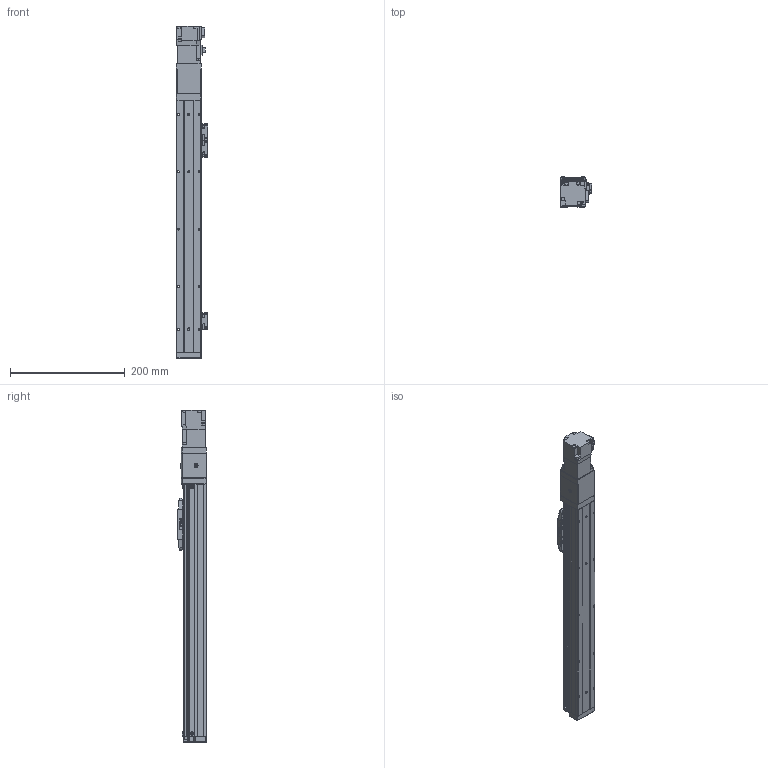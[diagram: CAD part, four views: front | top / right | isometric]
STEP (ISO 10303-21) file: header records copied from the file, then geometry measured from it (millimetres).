
FILE_DESCRIPTION (( 'STEP AP203' ), '1' );
FILE_NAME ('BTH40-300-BC-M05-C4.step', '2021-12-16T00:11:35', ( '微软用户' ), ( '微软中国' ), 'SwSTEP 2.0', 'SolidWorks 2020', '' );
FILE_SCHEMA (( 'CONFIG_CONTROL_DESIGN' ));
Length unit declared in the file: millimetre
Products named in the file (19): BTH40-017; BTH-M3X5X6; BTH40-022; BTH40-005-1; GBT70.1-2000 M3×16; GBT 70.1-M2.5×6; BTH40-300-BC-M05-C4; BTH50-028; BTH40-004; BTH50-023; BTH40-013; BTH40-001-50_BTH40-001-300; BTH50-024; HG-KR13; BTH40-003; GBT 70.1-M3℅6; GBT 70.3-M3℅6; BTH40-006; GBT96.1-2002 3×0.8
Assembly tree (49 placements, depth 2):
  BTH40-300-BC-M05-C4
    BTH40-001-50_BTH40-001-300
    BTH40-003
    BTH40-006
    BTH-M3X5X6  x10
    GBT70.1-2000 M3×16  x4
    BTH50-028  x2
    BTH50-023  x3
    BTH50-024  x3
    GBT 70.1-M3℅6  x6
    GBT96.1-2002 3×0.8  x6
    BTH40-022
    GBT 70.1-M2.5×6  x2
    BTH40-004
    BTH40-013
    HG-KR13
    GBT 70.3-M3℅6  x4
    BTH40-017
    BTH40-005-1
Bounding box: 55.2 x 52 x 579.4 mm (x, y, z)
Volume: 918417.6 mm3; surface area: 186268.2 mm2
Topology: 51 solids, 51 shells, 1954 faces, 4597 edges, 2844 vertices
Faces by surface type: plane 1088, cylinder 457, cone 257, torus 132, bspline 16, sphere 4
Entity records: 37539 total; most frequent: CARTESIAN_POINT 6790, DIRECTION 5888, ORIENTED_EDGE 5656, EDGE_CURVE 2828, LINE 2006, VECTOR 2006, AXIS2_PLACEMENT_3D 1941, VERTEX_POINT 1775
